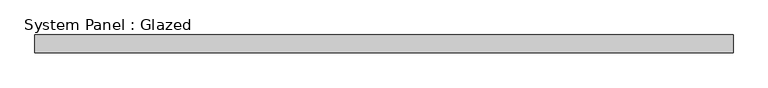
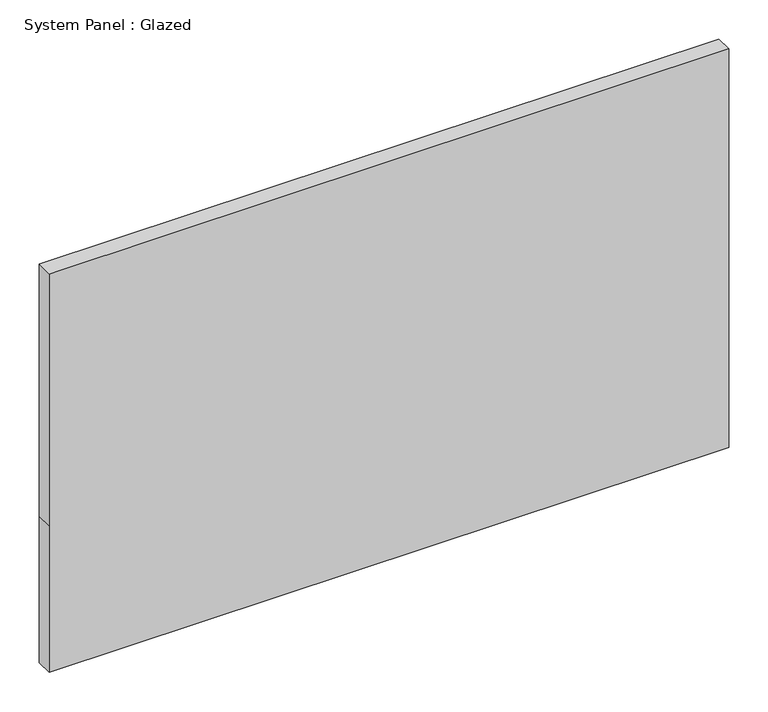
"""IFC4 building model written with IfcOpenShell, lengths in millimetres: plate geometry, System Panel : Glazed."""

from ifc_helpers import new_model, si_unit, frame, origin, place, context, project, spatial, polyline, outline, extrude, source, transform, mapped, element, save


def system_panel_glazed_b5ab2dc2(model_context):
    return source(origin(), model_context, "Body", "SweptSolid", [
        extrude(outline(polyline([(0.0, -501.6499999), (0.0, 501.6499999), (228.6, 501.6499999), (622.3, 501.6499999), (622.3, -501.6499999), (228.6, -501.6499999), (0.0, -501.6499999)])), frame((0.0, 19.05, 0.0), z_axis=(0.0, 1.0, 0.0), x_axis=(0.0, 0.0, 1.0)), (0.0, 0.0, 1.0), 25.4),
    ])


if __name__ == "__main__":
    model = new_model("IFC4")
    model_context = context("Model", 3, world=origin())
    ifc_project = project(units=[si_unit("LENGTHUNIT", "METRE", prefix="MILLI")], contexts=[model_context])
    site = spatial("IfcSite", under=ifc_project)
    building = spatial("IfcBuilding", under=site)
    placement = place(None, origin())
    system_panel_glazed_shape = system_panel_glazed_b5ab2dc2(model_context)
    element("IfcPlate", 1, ObjectType="System Panel : Glazed", at=placement, inside=building, context=model_context, shape_type="MappedRepresentation", body=[
        mapped(system_panel_glazed_shape, transform((0.0, 0.0, 0.0), x_axis=(1.0, 0.0, 0.0), y_axis=(0.0, 1.0, 0.0), z_axis=(0.0, 0.0, 1.0))),
    ])
    save(model, "model.ifc")
